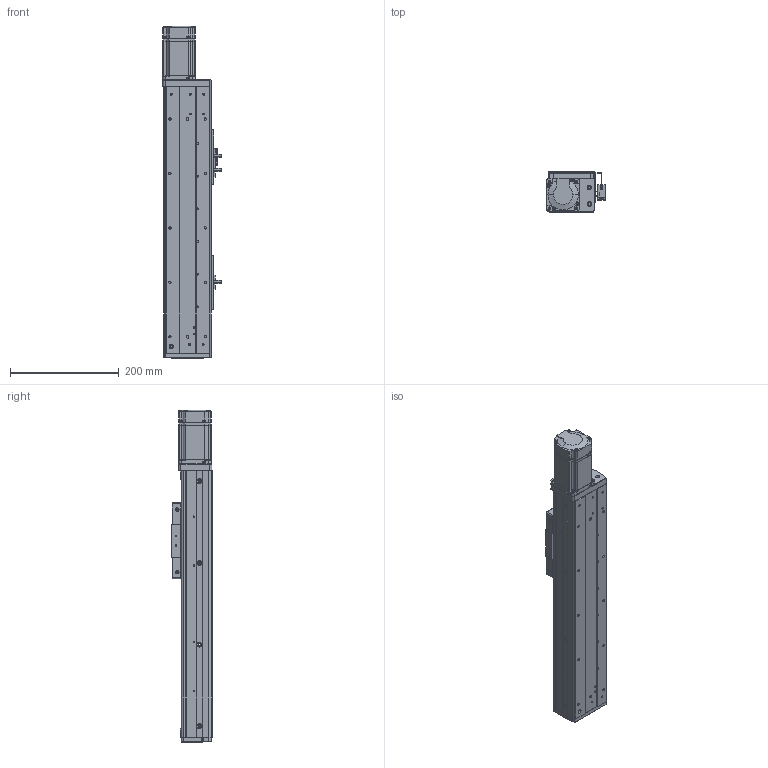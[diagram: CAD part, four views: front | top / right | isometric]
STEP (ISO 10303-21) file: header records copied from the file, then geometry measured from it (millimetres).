
FILE_DESCRIPTION (( 'STEP AP203' ), '1' );
FILE_NAME ('RY80F-L1610-300-MK.SLDASM_250.step', '2021-03-02T03:18:37', ( '盈信电脑' ), ( '东莞市道滘镇水果街19号' ), 'SwSTEP 2.0', 'SolidWorks 2012', '' );
FILE_SCHEMA (( 'CONFIG_CONTROL_DESIGN' ));
Products named in the file (16): 覜茼ん672; RY80F-L1610-300-MK.SLDASM_250; RY80俋离覜茼え; 侂狟200W萇儂; 滅袉蝶18-24; 1; RY80F-詩湍揤踡輸; 蚥薯蝶紫輸; 672嫖萇羲壽假蚾釱; RY80F-綴裔啣(臏璃ㄘ; RY80F-滅鳥裔啣; RY80F-300-祥凄詩湍-MK_250; RY80F-丝杆铝滑块(16丝杆）; RY80F-佪裝眻蟀ヶ裔啣(200W PCD70 M4); RY80F-300丝杆直连型材盖板_250; RY80F-丝杆直连型材底座_250
Assembly tree (21 placements, depth 3):
  RY80F-L1610-300-MK.SLDASM_250
    RY80F-丝杆直连型材底座_250
    RY80F-300丝杆直连型材盖板_250  x2
    RY80F-丝杆铝滑块(16丝杆）
    RY80F-滅鳥裔啣
    RY80F-300-祥凄詩湍-MK_250
    RY80F-佪裝眻蟀ヶ裔啣(200W PCD70 M4)
    RY80F-詩湍揤踡輸  x2
    RY80F-綴裔啣(臏璃ㄘ
    672嫖萇羲壽假蚾釱  x2
    蚥薯蝶紫輸
    滅袉蝶18-24  x2
    侂狟200W萇儂
      1
    RY80俋离覜茼え
    覜茼ん672  x3
Bounding box: 107.2 x 75 x 610 mm (x, y, z)
Volume: 1357220 mm3; surface area: 497363.3 mm2
Topology: 20 solids, 20 shells, 1651 faces, 4530 edges, 2952 vertices
Faces by surface type: plane 799, cylinder 725, cone 109, bspline 18
Entity records: 46726 total; most frequent: CARTESIAN_POINT 9637, DIRECTION 7414, ORIENTED_EDGE 7332, EDGE_CURVE 3666, AXIS2_PLACEMENT_3D 2601, VERTEX_POINT 2404, LINE 2212, VECTOR 2212
